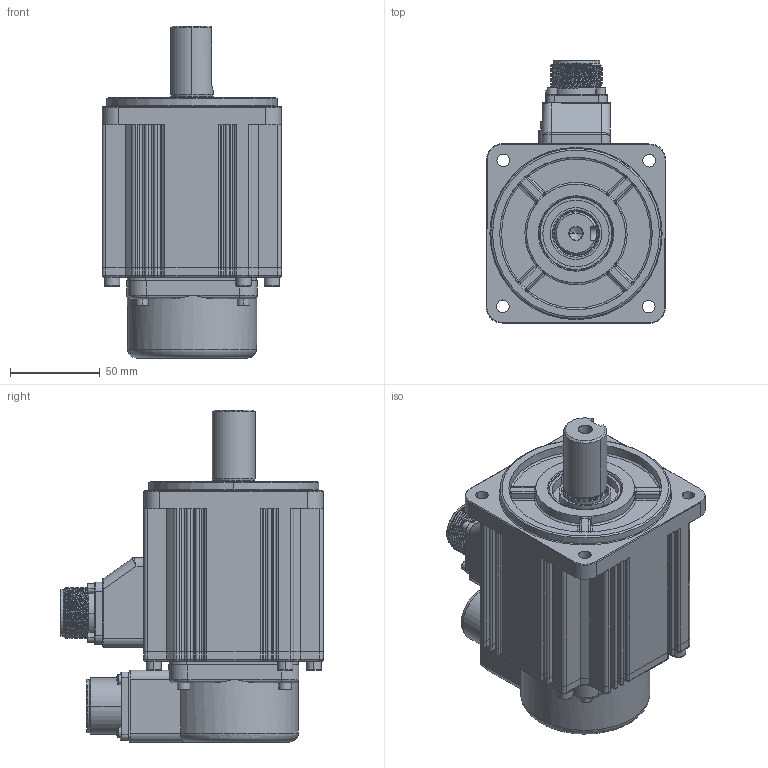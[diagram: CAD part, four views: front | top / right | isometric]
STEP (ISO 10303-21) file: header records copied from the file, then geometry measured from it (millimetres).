
FILE_DESCRIPTION((''),'2;1');
FILE_NAME('IMS20B-10M10C30C-00_ASM','2024-10-24T09:11:52',('0109067'),(''),'CREO PARAMETRIC BY PTC INC, 2019080','CREO PARAMETRIC BY PTC INC, 2019080','');
FILE_SCHEMA(('CONFIG_CONTROL_DESIGN'));
Products named in the file (17): 100_JIKE_10C_L32_9; 50051-00115_1; 18-A6-18FLANGE-CUSTOM-3D_1; ISO4762-M3X30-8_8_2; 100_DZZJ_10C_ASM_3_ASM; 100-1KW_ZHOU_L32_11; 100_HDG_2; 100_ZZZJ_10C_ASM_1_ASM; 100_FHZ_1; CMS3102A20-29PE9-A-3D_1; ISO7045-M3X16-4_8_1; ISO4762-M4X16-8_8_1; 100_FHZ_ASM_1_ASM; ISO4762-M5X16-8_8_1; 13000_1; IMS20B-10M10C30C_ASM_5_ASM; IMS20B-10M10C30C-00_ASM
Assembly tree (28 placements, depth 4):
  IMS20B-10M10C30C-00_ASM
    IMS20B-10M10C30C_ASM_5_ASM
      100_DZZJ_10C_ASM_3_ASM
        100_JIKE_10C_L32_9
        50051-00115_1
        18-A6-18FLANGE-CUSTOM-3D_1
        ISO4762-M3X30-8_8_2  x4
      100_ZZZJ_10C_ASM_1_ASM
        100-1KW_ZHOU_L32_11
        100_HDG_2
      100_FHZ_ASM_1_ASM
        100_FHZ_1
        CMS3102A20-29PE9-A-3D_1
        ISO7045-M3X16-4_8_1  x4
        ISO4762-M4X16-8_8_1  x4
      ISO4762-M5X16-8_8_1  x4
      13000_1
Bounding box: 100.24 x 146.75 x 185 mm (x, y, z)
Volume: 1198779.3 mm3; surface area: 179831.6 mm2
Topology: 24 solids, 61 shells, 4205 faces, 11451 edges, 7493 vertices
Faces by surface type: plane 2034, cylinder 902, extrusion 812, torus 207, cone 133, sphere 77, bspline 40
Entity records: 136177 total; most frequent: CARTESIAN_POINT 37585, ORIENTED_EDGE 21412, DIRECTION 18215, EDGE_CURVE 10750, VECTOR 7289, VERTEX_POINT 7103, LINE 6477, AXIS2_PLACEMENT_3D 5463
